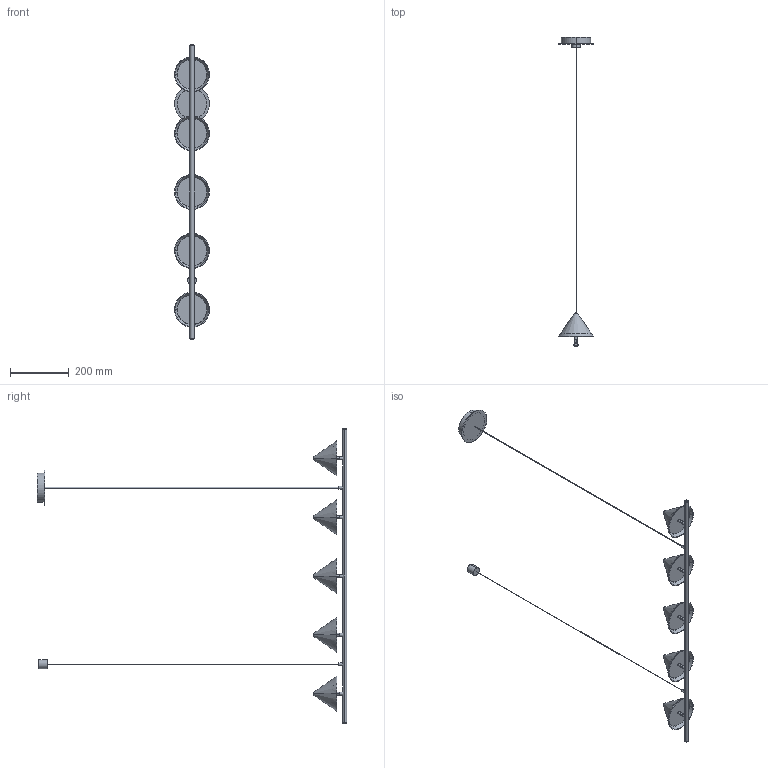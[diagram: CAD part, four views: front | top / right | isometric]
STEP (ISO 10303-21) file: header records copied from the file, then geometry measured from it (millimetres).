
FILE_DESCRIPTION (( 'STEP AP214' ), '1' );
FILE_NAME ('ANZA COLGANTE_5.STEP', '2024-10-14T15:26:06', ( '' ), ( '' ), 'SwSTEP 2.0', 'SolidWorks 2018', '' );
FILE_SCHEMA (( 'AUTOMOTIVE_DESIGN' ));
Length unit declared in the file: millimetre
Products named in the file (3): tulipa arriba; ANZA COLGANTE_5; ESTRUCTURA COLGANTE recto
Assembly tree (6 placements, depth 2):
  ANZA COLGANTE_5
    ESTRUCTURA COLGANTE recto
    tulipa arriba  x5
Bounding box: 120 x 1052 x 1000 mm (x, y, z)
Volume: 609002.3 mm3; surface area: 374556.9 mm2
Topology: 25 solids, 25 shells, 163 faces, 276 edges, 176 vertices
Faces by surface type: plane 63, cylinder 46, cone 30, torus 24
Entity records: 2171 total; most frequent: CARTESIAN_POINT 448, DIRECTION 372, ORIENTED_EDGE 248, AXIS2_PLACEMENT_3D 168, EDGE_CURVE 124, CIRCLE 84, EDGE_LOOP 80, VERTEX_POINT 80
